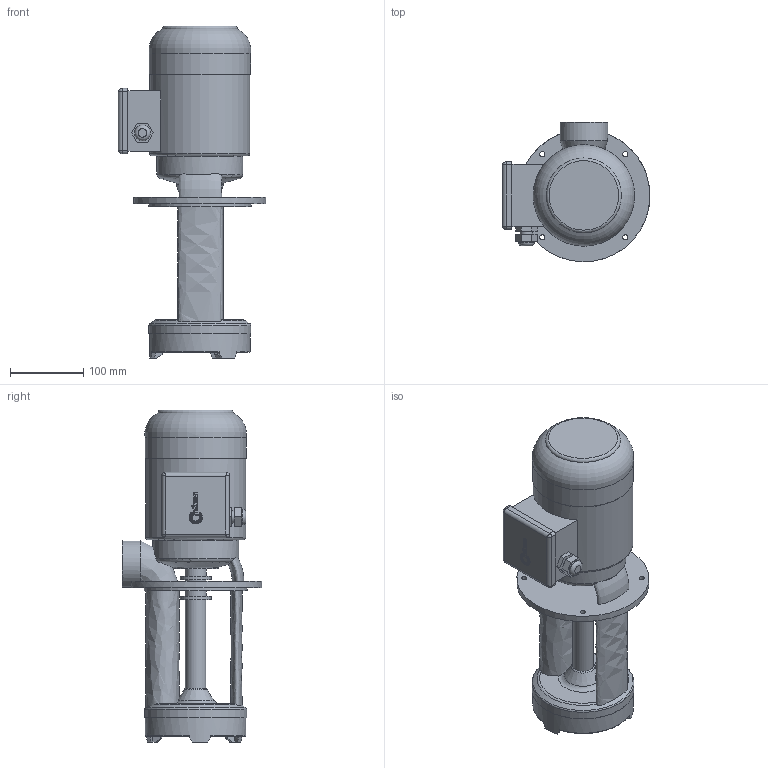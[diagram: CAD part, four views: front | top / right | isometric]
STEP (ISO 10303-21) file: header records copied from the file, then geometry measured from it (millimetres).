
FILE_DESCRIPTION(/* description */ ('Unknown'),/* implementation_level */ '2;1');
FILE_NAME(/* name */ 'EPV 250-210',/* time_stamp */ '2025-05-30T15:02:50+03:00',/* author */ ('Unknown'),/* organization */ ('Unknown'),/* preprocessor_version */ 'ST-DEVELOPER v16.7',/* originating_system */ 'DEX',/* authorisation */ $);
FILE_SCHEMA (('AUTOMOTIVE_DESIGN {1 0 10303 214 3 1 1}'));
Length unit declared in the file: millimetre
Products named in the file (1): EPV 250-210
Bounding box: 201.5 x 190 x 452.36 mm (x, y, z)
Volume: 4906996.1 mm3; surface area: 309801.1 mm2
Topology: 1 solids, 1 shells, 268 faces, 678 edges, 435 vertices
Faces by surface type: plane 91, bspline 81, cylinder 56, torus 26, cone 14
Full cylindrical faces by diameter (mm): 7 x4, 17 x1, 21.5 x1, 28 x1, 29 x3, 30 x1, 42 x2, 44 x1, 48 x1, 62 x1, 94 x1, 116.969 x1, 136.473 x1, 137 x1, 137.994 x1, 139 x1, 140 x1, 180 x1
Entity records: 11389 total; most frequent: CARTESIAN_POINT 5687, ORIENTED_EDGE 1212, DIRECTION 973, EDGE_CURVE 606, VERTEX_POINT 419, AXIS2_PLACEMENT_3D 372, EDGE_LOOP 363, FACE_BOUND 363
